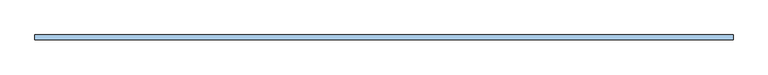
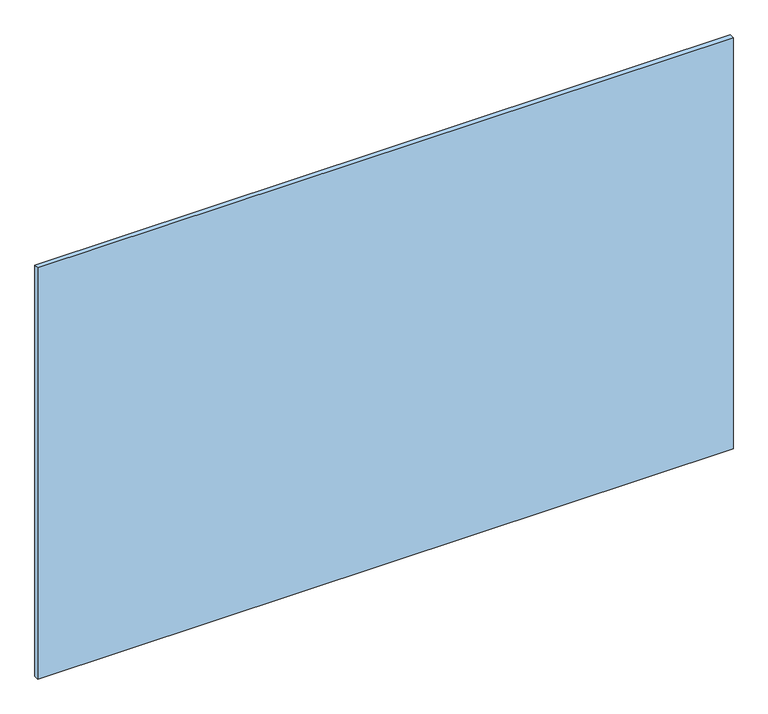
"""IFC4 building model written with IfcOpenShell, lengths in millimetres: window geometry, espejo biselado sin marco : ESP8-espejo biselado 160 x 100."""

from ifc_helpers import new_model, si_unit, origin, origin_with_axes, place, context, project, spatial, polyline, outline, extrude, source, transform, mapped, element, save


def window_0ac24249(model_context):
    return source(origin(), model_context, "Body", "SweptSolid", [
        extrude(outline(polyline([(-800.0, 79.0), (-800.0, 90.0), (800.0, 90.0), (800.0, 79.0), (-800.0, 79.0)])), origin_with_axes(), (0.0, 0.0, 1.0), 1000.0),
    ])


if __name__ == "__main__":
    model = new_model("IFC4")
    model_context = context("Model", 3, world=origin())
    ifc_project = project(units=[si_unit("LENGTHUNIT", "METRE", prefix="MILLI")], contexts=[model_context])
    site = spatial("IfcSite", under=ifc_project)
    building = spatial("IfcBuilding", under=site)
    placement = place(None, origin())
    window_shape = window_0ac24249(model_context)
    element("IfcWindow", 1, ObjectType="espejo biselado sin marco : ESP8-espejo biselado 160 x 100", at=placement, inside=building, context=model_context, shape_type="MappedRepresentation", body=[
        mapped(window_shape, transform((0.0, 0.0, 0.0), x_axis=(1.0, 0.0, 0.0), y_axis=(0.0, 1.0, 0.0), z_axis=(0.0, 0.0, 1.0))),
    ])
    save(model, "model.ifc")
